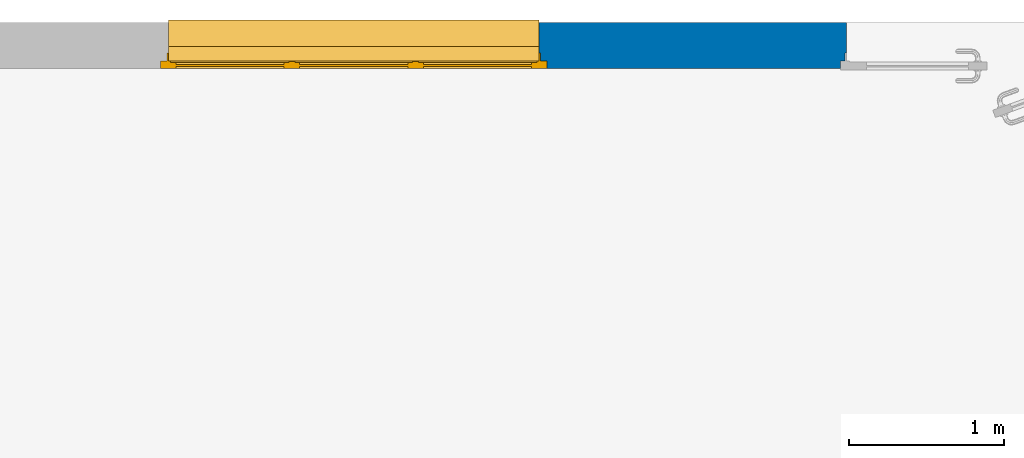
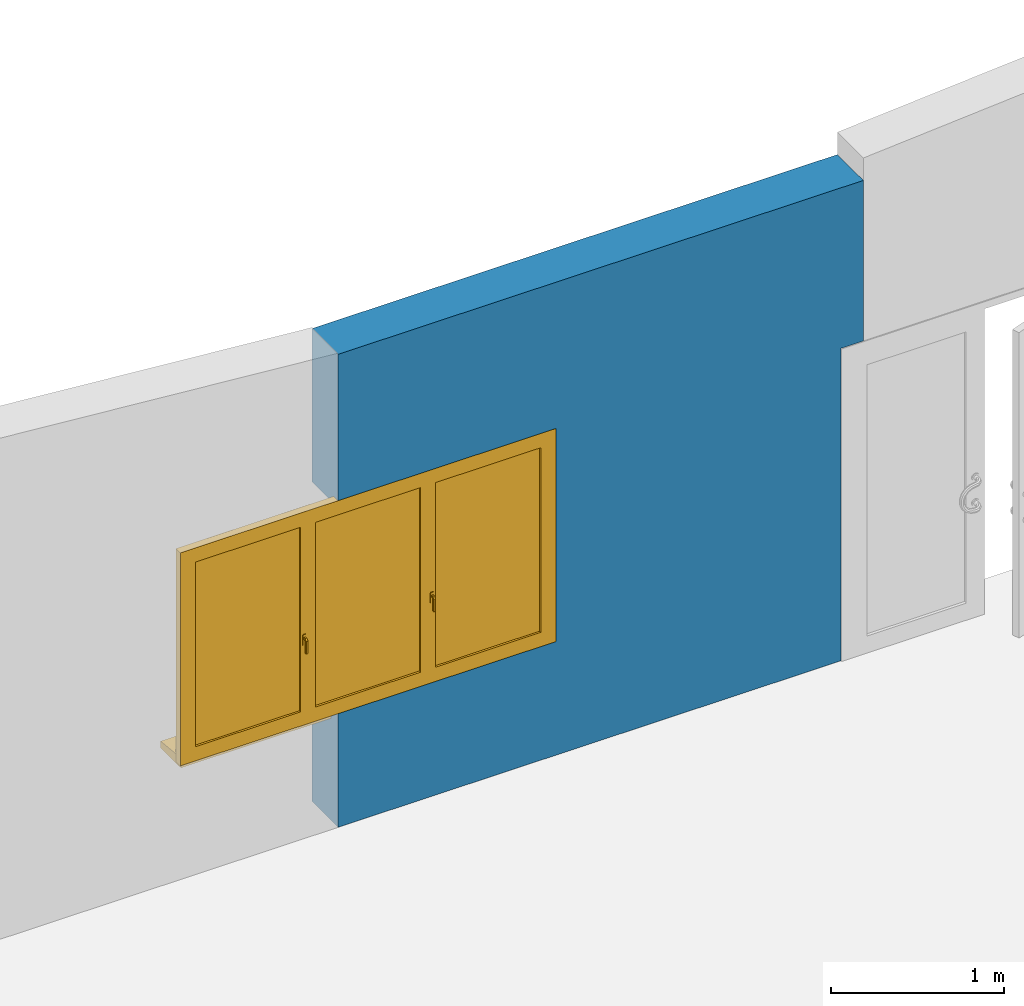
# One storey, part 4 of 8: 1 wall, 1 window, 2 openings.
"""IFC2X3 building model written with IfcOpenShell, lengths in metres."""

from ifc_helpers import new_model, entity, si_unit, converted_unit, derived_unit, direction, frame, frame_2d, origin, place, context, subcontext, project, spatial, rectangle, extrude, faceted_brep, source, transform, mapped, material, material_list, layer, layer_set, layer_usage, type_object, type_shapes, element, fill, save


model = new_model("IFC2X3")

# Units and contexts
model_context = context("Model", 3, precision=1e-05, world=origin(), true_north=direction((6.12303176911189e-17, 1.0)))
body_context = subcontext(model_context, "Body", "Model", "MODEL_VIEW")
ifc_project = project(units=[si_unit("LENGTHUNIT", "METRE"), si_unit("AREAUNIT", "SQUARE_METRE"), si_unit("VOLUMEUNIT", "CUBIC_METRE"), converted_unit("PLANEANGLEUNIT", "DEGREE", entity("IfcRatioMeasure", 0.0174532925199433), si_unit("PLANEANGLEUNIT", "RADIAN"), dimensions=[0, 0, 0, 0, 0, 0, 0]), si_unit("MASSUNIT", "GRAM", prefix="KILO"), derived_unit("MASSDENSITYUNIT", [(si_unit("MASSUNIT", "GRAM", prefix="KILO"), 1), (si_unit("LENGTHUNIT", "METRE"), -3)]), si_unit("TIMEUNIT", "SECOND"), si_unit("FREQUENCYUNIT", "HERTZ"), si_unit("THERMODYNAMICTEMPERATUREUNIT", "DEGREE_CELSIUS"), derived_unit("THERMALTRANSMITTANCEUNIT", [(si_unit("MASSUNIT", "GRAM", prefix="KILO"), 1), (si_unit("THERMODYNAMICTEMPERATUREUNIT", "KELVIN"), -1), (si_unit("TIMEUNIT", "SECOND"), -3)]), derived_unit("VOLUMETRICFLOWRATEUNIT", [(si_unit("LENGTHUNIT", "METRE"), 3), (si_unit("TIMEUNIT", "SECOND"), -1)]), si_unit("ELECTRICCURRENTUNIT", "AMPERE"), si_unit("ELECTRICVOLTAGEUNIT", "VOLT"), si_unit("POWERUNIT", "WATT"), si_unit("FORCEUNIT", "NEWTON", prefix="KILO"), si_unit("ILLUMINANCEUNIT", "LUX"), si_unit("LUMINOUSFLUXUNIT", "LUMEN"), si_unit("LUMINOUSINTENSITYUNIT", "CANDELA"), derived_unit("USERDEFINED", [(si_unit("MASSUNIT", "GRAM", prefix="KILO"), -1), (si_unit("LENGTHUNIT", "METRE"), -2), (si_unit("TIMEUNIT", "SECOND"), 3), (si_unit("LUMINOUSFLUXUNIT", "LUMEN"), 1)]), derived_unit("LINEARVELOCITYUNIT", [(si_unit("LENGTHUNIT", "METRE"), 1), (si_unit("TIMEUNIT", "SECOND"), -1)]), si_unit("PRESSUREUNIT", "PASCAL"), derived_unit("USERDEFINED", [(si_unit("LENGTHUNIT", "METRE"), -2), (si_unit("MASSUNIT", "GRAM", prefix="KILO"), 1), (si_unit("TIMEUNIT", "SECOND"), -2)])], contexts=[model_context])

# Site, building, storey
site_placement = place(None, origin())
site = spatial("IfcSite", under=ifc_project, at=site_placement, Name="Default", CompositionType="ELEMENT")
building_placement = place(site_placement, origin())
building = spatial("IfcBuilding", under=site, at=building_placement, CompositionType="ELEMENT")
storey_placement = place(building_placement, frame((0.0, 0.0, 3.3)))
storey = spatial("IfcBuildingStorey", under=building, at=storey_placement, Name="Niveau 1", CompositionType="ELEMENT", Elevation=3.3)

# Wall, openings, window
ifc_material_1 = material(Name="Maçonnerie - Voile BA")
ifc_layer_1 = layer(ifc_material_1, 0.18)
ifc_material_2 = material(Name="Maçonnerie - Isolant")
ifc_layer_2 = layer(ifc_material_2, 0.12)
ifc_layer_set = layer_set([ifc_layer_1, ifc_layer_2], Name="Mur de base:Ext. Voile BA 18 + Isolant 12")
ifc_layer_usage = layer_usage(ifc_layer_set, "AXIS2", "NEGATIVE", 0.15)
wall_type = type_object("IfcWallType", Name="Mur de base:Ext. Voile BA 18 + Isolant 12", PredefinedType="STANDARD", material=ifc_layer_set)
wall_placement = place(storey_placement, frame((-4.95266875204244, 2.85911858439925, 0.0)))
wall = element("IfcWallStandardCase", 1, at=wall_placement, inside=storey, type_object=wall_type, material=ifc_layer_usage, Name="Mur de base:Ext. Voile BA 18 + Isolant 12", ObjectType="Mur de base:Ext. Voile BA 18 + Isolant 12", context=body_context, shape_type="SweptSolid", body=[
    extrude(rectangle(XDim=3.49870998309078, YDim=0.3, at=frame_2d((1.74935499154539, 1.38777878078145e-17), x_axis=(-1.0, 0.0))), origin(), (0.0, 0.0, 1.0), 3.33),
])
opening_1_placement = place(wall_placement, frame((3.3487099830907, -0.450000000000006, 0.0)))
element("IfcOpeningElement", 2, at=opening_1_placement, cuts=wall, Name="Mur de base:Ext. Voile BA 18 + Isolant 12", ObjectType="Opening", context=body_context, shape_type="Brep", body=[
    faceted_brep([(0.0400000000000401, 0.0, 2.15999999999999), (1.86000000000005, 0.0, 2.15999999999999), (1.86000000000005, 0.292000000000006, 2.15999999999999), (0.0400000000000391, 0.292000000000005, 2.15999999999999), (0.0400000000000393, 0.899999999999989, 0.0), (1.86000000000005, 0.89999999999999, 0.0), (1.86000000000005, 0.400000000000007, 0.0), (1.87000000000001, 0.400000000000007, 0.0), (1.87000000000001, 0.350000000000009, 0.0), (1.90000000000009, 0.350000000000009, 0.0), (1.90000000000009, 0.292000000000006, 0.0), (1.86000000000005, 0.292000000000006, 0.0), (1.86000000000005, 0.0, 0.0), (0.0400000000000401, 0.0, 0.0), (0.0400000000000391, 0.292000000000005, 0.0), (0.0, 0.292000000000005, 0.0), (0.0, 0.350000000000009, 0.0), (0.0300000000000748, 0.350000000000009, 0.0), (0.0300000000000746, 0.400000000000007, 0.0), (0.0400000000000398, 0.400000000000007, 0.0), (0.0400000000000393, 0.899999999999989, 2.15999999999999), (1.86000000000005, 0.89999999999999, 2.15999999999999), (1.86000000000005, 0.400000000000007, 2.15999999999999), (1.87000000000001, 0.350000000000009, 2.16999999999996), (0.0300000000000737, 0.350000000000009, 2.16999999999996), (0.0, 0.350000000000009, 2.20000000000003), (1.90000000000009, 0.350000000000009, 2.20000000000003), (1.87000000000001, 0.400000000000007, 2.16999999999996), (0.0400000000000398, 0.400000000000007, 2.15999999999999), (0.0300000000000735, 0.400000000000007, 2.16999999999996), (1.90000000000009, 0.292000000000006, 2.20000000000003), (0.0, 0.292000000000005, 2.20000000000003)], [[[0, 1, 2, 3]], [[4, 5, 6, 7, 8, 9, 10, 11, 12, 13, 14, 15, 16, 17, 18, 19]], [[13, 0, 3, 14]], [[20, 21, 5, 4]], [[5, 21, 22, 6]], [[1, 0, 13, 12]], [[9, 8, 23, 24, 17, 16, 25, 26]], [[8, 7, 27, 23]], [[7, 6, 22, 28, 19, 18, 29, 27]], [[11, 10, 30, 31, 15, 14, 3, 2]], [[10, 9, 26, 30]], [[24, 23, 27, 29]], [[26, 25, 31, 30]], [[17, 24, 29, 18]], [[25, 16, 15, 31]], [[1, 12, 11, 2]], [[20, 4, 19, 28]], [[21, 20, 28, 22]]]),
])
opening_2_placement = place(wall_placement, frame((-1.05, -0.500000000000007, 0.720000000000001)))
opening_2 = element("IfcOpeningElement", 3, at=opening_2_placement, cuts=wall, Name="Mur de base:Ext. Voile BA 18 + Isolant 12", ObjectType="Opening", context=body_context, shape_type="Brep", body=[
    faceted_brep([(0.0499999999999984, 0.429999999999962, 0.0800000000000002), (0.0499999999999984, 0.450000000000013, 0.0800000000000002), (0.0499999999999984, 0.450000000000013, 1.53), (0.0500000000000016, 1.0, 1.53), (0.0500000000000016, 1.0, 0.0), (0.0499999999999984, 0.429999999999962, 0.0), (2.45, 0.0, 0.0800000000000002), (2.45, 0.350000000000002, 0.0800000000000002), (2.45, 0.350000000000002, 1.53), (2.45, 0.0, 1.53), (0.0499999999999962, 0.0, 0.0800000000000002), (0.0499999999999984, 0.35000000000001, 0.0800000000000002), (0.0, 0.35000000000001, 0.0800000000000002), (0.0, 0.400000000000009, 0.0800000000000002), (0.0399999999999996, 0.400000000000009, 0.0800000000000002), (0.0399999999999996, 0.450000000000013, 0.0800000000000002), (2.45, 0.42999999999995, 0.0800000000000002), (2.45, 0.450000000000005, 0.0800000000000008), (2.46, 0.450000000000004, 0.0800000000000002), (2.46, 0.400000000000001, 0.0800000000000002), (2.5, 0.400000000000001, 0.0800000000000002), (2.5, 0.350000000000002, 0.0800000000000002), (0.0499999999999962, 0.0, 1.53), (2.45, 0.450000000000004, 1.53), (2.45, 1.0, 1.53), (2.45, 1.0, 0.0), (2.45, 0.429999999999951, 0.0), (0.0, 0.35000000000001, 1.58), (0.0, 0.40000000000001, 1.58), (2.5, 0.400000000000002, 1.58), (2.46, 0.400000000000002, 1.54), (0.0399999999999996, 0.400000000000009, 1.54), (0.0399999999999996, 0.450000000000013, 1.54), (2.46, 0.450000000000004, 1.54), (0.0499999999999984, 0.35000000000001, 1.53), (2.5, 0.350000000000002, 1.58)], [[[0, 1, 2, 3, 4, 5]], [[6, 7, 8, 9]], [[10, 11, 12, 13, 14, 15, 1, 0, 16, 17, 18, 19, 20, 21, 7, 6]], [[10, 6, 9, 22]], [[3, 2, 23, 24]], [[3, 24, 25, 4]], [[4, 25, 26, 5]], [[5, 26, 16, 0]], [[12, 27, 28, 13]], [[13, 28, 29, 20, 19, 30, 31, 14]], [[14, 31, 32, 15]], [[15, 32, 33, 18, 17, 23, 2, 1]], [[11, 34, 8, 7, 21, 35, 27, 12]], [[27, 35, 29, 28]], [[30, 33, 32, 31]], [[29, 35, 21, 20]], [[19, 18, 33, 30]], [[9, 8, 34, 22]], [[24, 23, 17, 16, 26, 25]], [[22, 34, 11, 10]]]),
])
ifc_material_3 = material(Name="Fenêtre - Poignée")
ifc_material_4 = material(Name="Fenêtre - Appui")
ifc_material_5 = material(Name="Fenêtre - Cadre")
ifc_material_6 = material(Name="Fenêtre - Vitrage")
ifc_material_list_1 = material_list([ifc_material_3, ifc_material_4, ifc_material_5, ifc_material_6])
ifc_material_list_2 = material_list([ifc_material_3, ifc_material_4, ifc_material_5, ifc_material_6])
window_style = type_object("IfcWindowStyle", Name="2.40m x 1.45m - Appui Béton", ConstructionType="NOTDEFINED", OperationType="TRIPLE_PANEL_VERTICAL", ParameterTakesPrecedence=False, Sizeable=False, material=ifc_material_list_2)
shared_shape = source(origin(), body_context, "Body", "Brep", [
    faceted_brep([(0.83064600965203, -0.656000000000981, 0.702033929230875), (0.83203392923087, -0.656000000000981, 0.700646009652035), (0.83203392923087, -0.656000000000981, 0.68933230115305), (0.830667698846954, -0.656000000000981, 0.687966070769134), (0.819332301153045, -0.656000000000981, 0.687966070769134), (0.817966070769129, -0.656000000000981, 0.68933230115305), (0.817966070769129, -0.656000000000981, 0.700646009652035), (0.819353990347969, -0.656000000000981, 0.702033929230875), (0.83064600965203, -0.66891354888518, 0.702033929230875), (0.83203392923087, -0.668338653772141, 0.700646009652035), (0.83203392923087, -0.681646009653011, 0.687338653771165), (0.83203392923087, -0.681646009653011, 0.600000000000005), (0.83203392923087, -0.670332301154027, 0.600000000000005), (0.83203392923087, -0.670332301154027, 0.68265236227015), (0.83203392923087, -0.663652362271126, 0.68933230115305), (0.830667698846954, -0.663086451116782, 0.687966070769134), (0.819332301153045, -0.663086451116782, 0.687966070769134), (0.817966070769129, -0.663652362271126, 0.68933230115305), (0.817966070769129, -0.670332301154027, 0.68265236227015), (0.817966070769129, -0.670332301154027, 0.600000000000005), (0.817966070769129, -0.681646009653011, 0.600000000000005), (0.817966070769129, -0.681646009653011, 0.687338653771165), (0.817966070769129, -0.668338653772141, 0.700646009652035), (0.81935399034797, -0.66891354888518, 0.702033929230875), (0.83064600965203, -0.683033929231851, 0.687913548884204), (0.830667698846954, -0.668966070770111, 0.682086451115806), (0.819332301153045, -0.668966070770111, 0.682086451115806), (0.819353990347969, -0.683033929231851, 0.687913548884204), (0.83064600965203, -0.683033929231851, 0.600000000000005), (0.819353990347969, -0.683033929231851, 0.600000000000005), (0.819332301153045, -0.668966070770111, 0.600000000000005), (0.830667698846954, -0.668966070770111, 0.600000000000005)], [[[0, 1, 2, 3, 4, 5, 6, 7]], [[1, 0, 8, 9]], [[2, 1, 9, 10, 11, 12, 13, 14]], [[3, 2, 14, 15]], [[4, 3, 15, 16]], [[5, 4, 16, 17]], [[6, 5, 17, 18, 19, 20, 21, 22]], [[7, 6, 22, 23]], [[0, 7, 23, 8]], [[9, 8, 24, 10]], [[15, 14, 13, 25]], [[16, 15, 25, 26]], [[17, 16, 26, 18]], [[23, 22, 21, 27]], [[8, 23, 27, 24]], [[28, 29, 20, 19, 30, 31, 12, 11]], [[10, 24, 28, 11]], [[25, 13, 12, 31]], [[26, 25, 31, 30]], [[18, 26, 30, 19]], [[27, 21, 20, 29]], [[24, 27, 29, 28]]]),
    faceted_brep([(0.832000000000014, -0.656000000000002, 0.720000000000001), (0.817999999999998, -0.656000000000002, 0.720000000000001), (0.812999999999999, -0.656000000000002, 0.715000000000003), (0.812999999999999, -0.656000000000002, 0.644999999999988), (0.817999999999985, -0.656000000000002, 0.640000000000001), (0.832000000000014, -0.656000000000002, 0.640000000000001), (0.837, -0.656000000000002, 0.644999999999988), (0.837, -0.656000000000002, 0.715000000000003), (0.832000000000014, -0.650000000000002, 0.720000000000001), (0.837, -0.650000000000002, 0.715000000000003), (0.837, -0.650000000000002, 0.644999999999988), (0.832000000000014, -0.650000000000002, 0.640000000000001), (0.817999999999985, -0.650000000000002, 0.640000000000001), (0.812999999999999, -0.650000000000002, 0.644999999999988), (0.812999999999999, -0.650000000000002, 0.715000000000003), (0.817999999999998, -0.650000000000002, 0.720000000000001)], [[[0, 1, 2, 3, 4, 5, 6, 7]], [[8, 9, 10, 11, 12, 13, 14, 15]], [[1, 0, 8, 15]], [[2, 1, 15, 14]], [[3, 2, 14, 13]], [[4, 3, 13, 12]], [[5, 4, 12, 11]], [[6, 5, 11, 10]], [[7, 6, 10, 9]], [[0, 7, 9, 8]]]),
    faceted_brep([(1.68064600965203, -0.656000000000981, 0.702033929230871), (1.68203392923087, -0.656000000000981, 0.700646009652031), (1.68203392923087, -0.656000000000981, 0.689332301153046), (1.68066769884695, -0.656000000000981, 0.68796607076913), (1.66933230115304, -0.656000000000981, 0.68796607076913), (1.66796607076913, -0.656000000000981, 0.689332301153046), (1.66796607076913, -0.656000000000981, 0.700646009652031), (1.66935399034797, -0.656000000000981, 0.702033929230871), (1.68064600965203, -0.66891354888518, 0.702033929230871), (1.68203392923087, -0.668338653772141, 0.700646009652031), (1.68203392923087, -0.681646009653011, 0.687338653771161), (1.68203392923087, -0.681646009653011, 0.600000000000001), (1.68203392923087, -0.670332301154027, 0.600000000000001), (1.68203392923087, -0.670332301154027, 0.682652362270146), (1.68203392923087, -0.663652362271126, 0.689332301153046), (1.68066769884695, -0.663086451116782, 0.68796607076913), (1.66933230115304, -0.663086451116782, 0.68796607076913), (1.66796607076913, -0.663652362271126, 0.689332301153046), (1.66796607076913, -0.670332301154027, 0.682652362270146), (1.66796607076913, -0.670332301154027, 0.600000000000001), (1.66796607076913, -0.681646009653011, 0.600000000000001), (1.66796607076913, -0.681646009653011, 0.687338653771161), (1.66796607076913, -0.668338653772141, 0.700646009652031), (1.66935399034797, -0.66891354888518, 0.702033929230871), (1.68064600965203, -0.683033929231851, 0.6879135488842), (1.68066769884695, -0.668966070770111, 0.682086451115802), (1.66933230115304, -0.668966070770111, 0.682086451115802), (1.66935399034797, -0.683033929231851, 0.6879135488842), (1.68064600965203, -0.683033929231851, 0.600000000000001), (1.66935399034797, -0.683033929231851, 0.600000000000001), (1.66933230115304, -0.668966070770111, 0.600000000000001), (1.68066769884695, -0.668966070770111, 0.600000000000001)], [[[0, 1, 2, 3, 4, 5, 6, 7]], [[1, 0, 8, 9]], [[2, 1, 9, 10, 11, 12, 13, 14]], [[3, 2, 14, 15]], [[4, 3, 15, 16]], [[5, 4, 16, 17]], [[6, 5, 17, 18, 19, 20, 21, 22]], [[7, 6, 22, 23]], [[0, 7, 23, 8]], [[9, 8, 24, 10]], [[15, 14, 13, 25]], [[16, 15, 25, 26]], [[17, 16, 26, 18]], [[23, 22, 21, 27]], [[8, 23, 27, 24]], [[28, 29, 20, 19, 30, 31, 12, 11]], [[10, 24, 28, 11]], [[25, 13, 12, 31]], [[26, 25, 31, 30]], [[18, 26, 30, 19]], [[27, 21, 20, 29]], [[24, 27, 29, 28]]]),
    faceted_brep([(1.68200000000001, -0.656000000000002, 0.719999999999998), (1.668, -0.656000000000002, 0.719999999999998), (1.663, -0.656000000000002, 0.714999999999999), (1.663, -0.656000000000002, 0.644999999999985), (1.66799999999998, -0.656000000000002, 0.639999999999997), (1.68200000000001, -0.656000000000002, 0.639999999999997), (1.687, -0.656000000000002, 0.644999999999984), (1.687, -0.656000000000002, 0.714999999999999), (1.68200000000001, -0.650000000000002, 0.719999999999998), (1.687, -0.650000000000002, 0.714999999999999), (1.687, -0.650000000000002, 0.644999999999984), (1.68200000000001, -0.650000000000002, 0.639999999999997), (1.66799999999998, -0.650000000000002, 0.639999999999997), (1.663, -0.650000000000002, 0.644999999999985), (1.663, -0.650000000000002, 0.714999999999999), (1.668, -0.650000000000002, 0.719999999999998)], [[[0, 1, 2, 3, 4, 5, 6, 7]], [[8, 9, 10, 11, 12, 13, 14, 15]], [[1, 0, 8, 15]], [[2, 1, 15, 14]], [[3, 2, 14, 13]], [[4, 3, 13, 12]], [[5, 4, 12, 11]], [[6, 5, 11, 10]], [[7, 6, 10, 9]], [[0, 7, 9, 8]]]),
    faceted_brep([(0.050000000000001, -0.569999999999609, 0.0799999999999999), (0.0500000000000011, -0.519999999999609, 0.0799999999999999), (0.0500000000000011, -0.519999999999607, 0.0650000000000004), (0.0500000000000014, -0.334999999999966, 0.0455557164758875), (0.0500000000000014, -0.334999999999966, 0.0), (0.050000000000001, -0.569999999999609, 0.0), (2.45, -0.569999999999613, 0.0799999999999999), (2.45, -0.569999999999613, 0.0), (2.45, -0.33499999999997, 0.0), (2.45, -0.33499999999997, 0.0455557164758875), (2.45, -0.519999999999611, 0.0650000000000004), (2.45, -0.519999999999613, 0.0799999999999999)], [[[0, 1, 2, 3, 4, 5]], [[6, 7, 8, 9, 10, 11]], [[1, 0, 6, 11]], [[2, 1, 11, 10]], [[3, 2, 10, 9]], [[4, 3, 9, 8]], [[5, 4, 8, 7]], [[0, 5, 7, 6]]]),
    faceted_brep([(1.65, -0.610000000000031, 1.53), (1.65, -0.650000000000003, 1.53), (1.65, -0.650000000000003, 0.13), (1.65, -0.610000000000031, 0.13), (0.849999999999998, -0.65, 0.13), (0.849999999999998, -0.610000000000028, 0.13), (0.849999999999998, -0.65, 1.53), (0.899999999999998, -0.65, 0.18), (0.899999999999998, -0.65, 1.48), (1.6, -0.650000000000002, 1.48), (1.6, -0.650000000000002, 0.18), (0.849999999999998, -0.610000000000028, 1.53), (1.6, -0.61000000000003, 0.179999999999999), (1.6, -0.61000000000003, 1.48), (0.899999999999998, -0.610000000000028, 1.48), (0.899999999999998, -0.610000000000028, 0.18)], [[[0, 1, 2, 3]], [[3, 2, 4, 5]], [[2, 1, 6, 4], [7, 8, 9, 10]], [[5, 4, 6, 11]], [[5, 11, 0, 3], [12, 13, 14, 15]], [[9, 13, 12, 10]], [[10, 12, 15, 7]], [[7, 15, 14, 8]], [[11, 6, 1, 0]], [[8, 14, 13, 9]]]),
    faceted_brep([(0.849999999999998, -0.610000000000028, 1.53), (0.849999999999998, -0.650000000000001, 1.53), (0.849999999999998, -0.650000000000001, 0.13), (0.849999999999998, -0.610000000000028, 0.13), (0.0499999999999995, -0.649999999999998, 0.13), (0.0499999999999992, -0.610000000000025, 0.13), (0.0499999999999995, -0.649999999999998, 1.53), (0.0999999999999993, -0.649999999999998, 0.18), (0.0999999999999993, -0.649999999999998, 1.48), (0.799999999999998, -0.650000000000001, 1.48), (0.799999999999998, -0.650000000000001, 0.18), (0.0499999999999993, -0.610000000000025, 1.53), (0.799999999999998, -0.610000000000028, 0.18), (0.799999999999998, -0.610000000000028, 1.48), (0.0999999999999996, -0.610000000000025, 1.48), (0.0999999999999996, -0.610000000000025, 0.18)], [[[0, 1, 2, 3]], [[3, 2, 4, 5]], [[2, 1, 6, 4], [7, 8, 9, 10]], [[5, 4, 6, 11]], [[5, 11, 0, 3], [12, 13, 14, 15]], [[9, 13, 12, 10]], [[10, 12, 15, 7]], [[7, 15, 14, 8]], [[11, 6, 1, 0]], [[8, 14, 13, 9]]]),
    faceted_brep([(1.7, -0.624000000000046, 0.18), (1.7, -0.624000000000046, 1.48), (2.4, -0.624000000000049, 1.48), (2.4, -0.624000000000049, 0.18), (1.7, -0.636000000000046, 0.18), (1.7, -0.636000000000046, 1.48), (2.4, -0.636000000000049, 1.48), (2.4, -0.636000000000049, 0.18)], [[[0, 1, 2, 3]], [[1, 0, 4, 5]], [[3, 2, 6, 7]], [[0, 3, 7, 4]], [[2, 1, 5, 6]], [[4, 7, 6, 5]]]),
    faceted_brep([(0.799999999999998, -0.624000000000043, 0.18), (0.799999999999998, -0.624000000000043, 1.48), (0.799999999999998, -0.636000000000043, 1.48), (0.799999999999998, -0.636000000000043, 0.18), (0.0999999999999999, -0.624000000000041, 0.18), (0.0999999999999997, -0.636000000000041, 0.18), (0.0999999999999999, -0.624000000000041, 1.48), (0.0999999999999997, -0.636000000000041, 1.48)], [[[0, 1, 2, 3]], [[4, 0, 3, 5]], [[6, 4, 5, 7]], [[7, 5, 3, 2]], [[1, 6, 7, 2]], [[6, 1, 0, 4]]]),
    faceted_brep([(1.6, -0.624000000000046, 0.18), (1.6, -0.624000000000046, 1.48), (1.6, -0.636000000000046, 1.48), (1.6, -0.636000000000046, 0.18), (0.899999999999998, -0.624000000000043, 0.18), (0.899999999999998, -0.636000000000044, 0.18), (0.899999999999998, -0.624000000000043, 1.48), (0.899999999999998, -0.636000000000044, 1.48)], [[[0, 1, 2, 3]], [[4, 0, 3, 5]], [[6, 4, 5, 7]], [[1, 6, 7, 2]], [[7, 5, 3, 2]], [[6, 1, 0, 4]]]),
    faceted_brep([(1.7, -0.610000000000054, 1.48), (1.7, -0.650000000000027, 1.48), (1.7, -0.650000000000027, 0.18), (1.7, -0.610000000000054, 0.18), (2.4, -0.650000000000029, 0.18), (2.4, -0.610000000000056, 0.18), (2.4, -0.650000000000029, 1.48), (2.45, -0.65000000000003, 0.13), (2.45, -0.65000000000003, 1.53), (1.65, -0.650000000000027, 1.53), (1.65, -0.650000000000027, 0.13), (2.4, -0.610000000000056, 1.48), (1.65, -0.610000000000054, 0.13), (1.65, -0.610000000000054, 1.53), (2.45, -0.610000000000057, 1.53), (2.45, -0.610000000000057, 0.13)], [[[0, 1, 2, 3]], [[3, 2, 4, 5]], [[2, 1, 6, 4], [7, 8, 9, 10]], [[5, 4, 6, 11]], [[5, 11, 0, 3], [12, 13, 14, 15]], [[9, 13, 12, 10]], [[10, 12, 15, 7]], [[7, 15, 14, 8]], [[11, 6, 1, 0]], [[8, 14, 13, 9]]], outer=[[True], [True], [False, True], [True], [False, True], [True], [True], [True], [True], [True]]),
    faceted_brep([(0.0, -0.650000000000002, 0.0799999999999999), (0.0, -0.600000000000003, 0.0799999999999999), (0.0499999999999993, -0.600000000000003, 0.0799999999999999), (0.0499999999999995, -0.51500000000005, 0.0800000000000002), (2.45, -0.515000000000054, 0.0799999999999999), (2.45, -0.600000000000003, 0.0800000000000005), (2.5, -0.600000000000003, 0.0799999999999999), (2.5, -0.650000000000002, 0.0799999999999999), (0.0, -0.650000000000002, 1.58), (0.0, -0.600000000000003, 1.58), (2.5, -0.600000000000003, 1.58), (2.45, -0.600000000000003, 0.119376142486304), (0.0499999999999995, -0.600000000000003, 0.119376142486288), (0.0649999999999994, -0.600000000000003, 1.515), (0.0649999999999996, -0.600000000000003, 0.145), (2.435, -0.600000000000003, 0.145), (2.435, -0.600000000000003, 1.515), (0.0499999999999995, -0.50500000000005, 0.0939209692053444), (0.0499999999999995, -0.50500000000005, 0.0749999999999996), (0.0499999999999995, -0.51500000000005, 0.0749999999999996), (2.45, -0.515000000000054, 0.0749999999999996), (2.45, -0.505000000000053, 0.0749999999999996), (2.45, -0.505000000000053, 0.0939209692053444), (2.5, -0.650000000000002, 1.58), (2.45, -0.650000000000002, 1.53), (2.45, -0.650000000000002, 0.13), (0.0499999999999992, -0.65, 0.13), (0.0499999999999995, -0.650000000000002, 1.53), (0.0649999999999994, -0.610000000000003, 1.515), (0.0649999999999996, -0.610000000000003, 0.145), (2.435, -0.610000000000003, 0.145), (2.435, -0.610000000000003, 1.515), (2.45, -0.610000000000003, 1.53), (0.0499999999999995, -0.610000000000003, 1.53), (0.0499999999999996, -0.610000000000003, 0.13), (2.45, -0.610000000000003, 0.13)], [[[0, 1, 2, 3, 4, 5, 6, 7]], [[1, 0, 8, 9]], [[1, 9, 10, 6, 5, 11, 12, 2], [13, 14, 15, 16]], [[12, 17, 18, 19, 3, 2]], [[3, 19, 20, 4]], [[4, 20, 21, 22, 11, 5]], [[6, 10, 23, 7]], [[0, 7, 23, 8], [24, 25, 26, 27]], [[13, 28, 29, 14]], [[29, 30, 15, 14]], [[31, 16, 15, 30]], [[17, 12, 11, 22]], [[32, 33, 34, 35], [28, 31, 30, 29]], [[34, 33, 27, 26]], [[26, 25, 35, 34]], [[24, 32, 35, 25]], [[18, 17, 22, 21]], [[19, 18, 21, 20]], [[13, 16, 31, 28]], [[33, 32, 24, 27]], [[10, 9, 8, 23]]]),
    faceted_brep([(0.0499999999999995, -0.550000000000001, 0.0799999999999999), (0.0499999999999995, -0.600000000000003, 0.0799999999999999), (0.039999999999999, -0.600000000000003, 0.0799999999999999), (0.039999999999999, -0.550000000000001, 0.0799999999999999), (0.0499999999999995, -0.550000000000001, 1.53), (0.0499999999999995, -0.600000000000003, 1.53), (2.45, -0.600000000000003, 1.53), (2.45, -0.600000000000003, 0.0799999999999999), (2.46, -0.600000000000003, 0.0800000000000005), (2.46, -0.600000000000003, 1.54), (0.039999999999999, -0.600000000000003, 1.54), (0.039999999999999, -0.550000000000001, 1.54), (2.46, -0.550000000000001, 1.54), (2.46, -0.550000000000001, 0.0799999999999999), (2.45, -0.550000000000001, 0.0800000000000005), (2.45, -0.550000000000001, 1.53)], [[[0, 1, 2, 3]], [[1, 0, 4, 5]], [[2, 1, 5, 6, 7, 8, 9, 10]], [[3, 2, 10, 11]], [[0, 3, 11, 12, 13, 14, 15, 4]], [[6, 15, 14, 7]], [[14, 13, 8, 7]], [[12, 9, 8, 13]], [[5, 4, 15, 6]], [[11, 10, 9, 12]]]),
    faceted_brep([(1.67, -0.602000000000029, 1.515), (1.63, -0.602000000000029, 1.515), (1.63, -0.610000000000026, 1.515), (1.67, -0.610000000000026, 1.515), (1.67, -0.602000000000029, 0.145), (1.63, -0.602000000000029, 0.145), (1.63, -0.610000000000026, 0.145), (1.67, -0.610000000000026, 0.145)], [[[0, 1, 2, 3]], [[1, 0, 4, 5]], [[2, 1, 5, 6]], [[3, 2, 6, 7]], [[0, 3, 7, 4]], [[4, 7, 6, 5]]]),
    faceted_brep([(0.870000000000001, -0.602000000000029, 0.145), (0.870000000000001, -0.610000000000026, 0.145), (0.83, -0.610000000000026, 0.145), (0.83, -0.602000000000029, 0.145), (0.83, -0.602000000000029, 1.515), (0.870000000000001, -0.602000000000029, 1.515), (0.83, -0.610000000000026, 1.515), (0.870000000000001, -0.610000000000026, 1.515)], [[[0, 1, 2, 3]], [[4, 5, 0, 3]], [[6, 4, 3, 2]], [[7, 6, 2, 1]], [[5, 7, 1, 0]], [[5, 4, 6, 7]]]),
])
type_shapes(window_style, [shared_shape])
window_placement = place(opening_2_placement, frame((0.0, 1.0, 0.0)))
window = element("IfcWindow", 4, at=window_placement, inside=storey, type_object=window_style, material=ifc_material_list_1, Name="3 Vantaux - Droits:2.40m x 1.45m - Appui Béton", ObjectType="2.40m x 1.45m - Appui Béton", OverallHeight=1.58, OverallWidth=2.5, context=body_context, shape_type="MappedRepresentation", body=[
    mapped(shared_shape, transform((0.0, 0.0, 0.0), scale=1.0)),
])
fill(opening_2, window)

save(model, "model.ifc")
